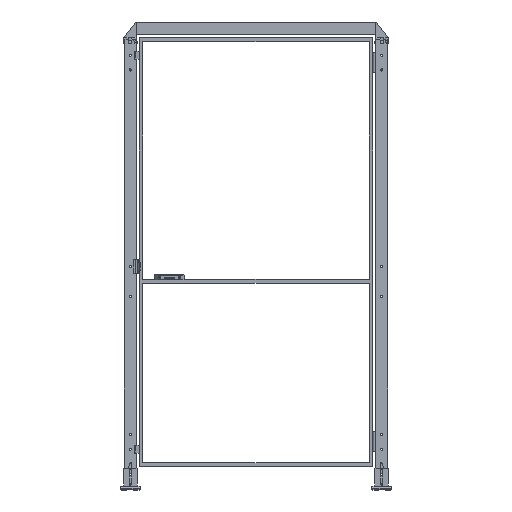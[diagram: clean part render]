
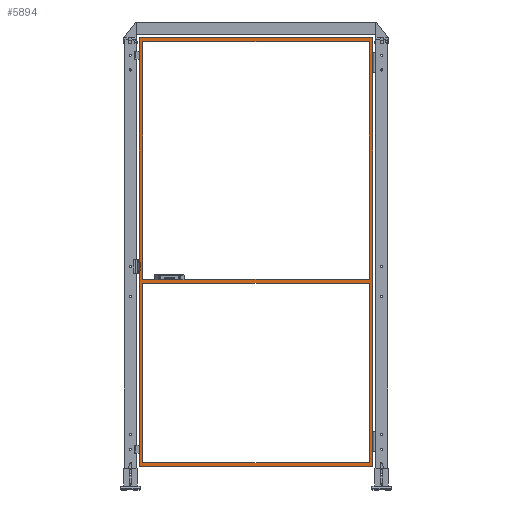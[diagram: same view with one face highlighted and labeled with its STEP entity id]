
A CAD part, top view. The second image highlights one B-rep face of the part: STEP entity #5894.
In plain terms, the highlighted planar face has unit normal (0, 0, 1).
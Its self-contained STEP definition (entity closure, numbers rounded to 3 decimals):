
#5894=ADVANCED_FACE('',(#12068,#12069,#12070),#12071,.F.);
#12068=FACE_BOUND('',#19807,.T.);
#12069=FACE_OUTER_BOUND('',#19808,.T.);
#12070=FACE_BOUND('',#19809,.T.);
#12071=PLANE('',#19810);
#19807=EDGE_LOOP('',(#37257,#37258,#37259,#37260));
#19808=EDGE_LOOP('',(#37261,#37262,#37263,#37264));
#19809=EDGE_LOOP('',(#37265,#37266,#37267,#37268));
#19810=AXIS2_PLACEMENT_3D('',#37269,#37270,#37271);
#37257=ORIENTED_EDGE('',*,*,#44399,.F.);
#37258=ORIENTED_EDGE('',*,*,#44405,.T.);
#37259=ORIENTED_EDGE('',*,*,#44427,.T.);
#37260=ORIENTED_EDGE('',*,*,#44432,.F.);
#37261=ORIENTED_EDGE('',*,*,#44443,.F.);
#37262=ORIENTED_EDGE('',*,*,#44437,.F.);
#37263=ORIENTED_EDGE('',*,*,#44407,.F.);
#37264=ORIENTED_EDGE('',*,*,#44441,.F.);
#37265=ORIENTED_EDGE('',*,*,#44429,.F.);
#37266=ORIENTED_EDGE('',*,*,#44424,.F.);
#37267=ORIENTED_EDGE('',*,*,#44435,.T.);
#37268=ORIENTED_EDGE('',*,*,#44444,.T.);
#37269=CARTESIAN_POINT('',(615.0,130.0,10.0));
#37270=DIRECTION('',(0.,0.0,-1.0));
#37271=DIRECTION('',(-1.0,0.0,0.));
#44399=EDGE_CURVE('',#54881,#54884,#54885,.T.);
#44405=EDGE_CURVE('',#54881,#54892,#54894,.T.);
#44407=EDGE_CURVE('',#54896,#54897,#54898,.T.);
#44424=EDGE_CURVE('',#54924,#54922,#54926,.T.);
#44427=EDGE_CURVE('',#54892,#54928,#54930,.T.);
#44429=EDGE_CURVE('',#54922,#54932,#54933,.T.);
#44432=EDGE_CURVE('',#54884,#54928,#54936,.T.);
#44435=EDGE_CURVE('',#54924,#54938,#54940,.T.);
#44437=EDGE_CURVE('',#54897,#54942,#54943,.T.);
#44441=EDGE_CURVE('',#54946,#54896,#54948,.T.);
#44443=EDGE_CURVE('',#54942,#54946,#54950,.T.);
#44444=EDGE_CURVE('',#54938,#54932,#54951,.T.);
#54881=VERTEX_POINT('',#70715);
#54884=VERTEX_POINT('',#70719);
#54885=LINE('',#70720,#70721);
#54892=VERTEX_POINT('',#70731);
#54894=LINE('',#70734,#70735);
#54896=VERTEX_POINT('',#70737);
#54897=VERTEX_POINT('',#70738);
#54898=LINE('',#70739,#70740);
#54922=VERTEX_POINT('',#70776);
#54924=VERTEX_POINT('',#70779);
#54926=LINE('',#70782,#70783);
#54928=VERTEX_POINT('',#70785);
#54930=LINE('',#70788,#70789);
#54932=VERTEX_POINT('',#70791);
#54933=LINE('',#70792,#70793);
#54936=LINE('',#70797,#70798);
#54938=VERTEX_POINT('',#70800);
#54940=LINE('',#70803,#70804);
#54942=VERTEX_POINT('',#70806);
#54943=LINE('',#70807,#70808);
#54946=VERTEX_POINT('',#70812);
#54948=LINE('',#70815,#70816);
#54950=LINE('',#70818,#70819);
#54951=LINE('',#70820,#70821);
#70715=CARTESIAN_POINT('',(1195.0,2300.0,10.));
#70719=CARTESIAN_POINT('',(35.,2300.0,10.0));
#70720=CARTESIAN_POINT('',(615.0,2300.0,10.0));
#70721=VECTOR('',#78397,1.0);
#70731=CARTESIAN_POINT('',(1195.0,1080.0,10.));
#70734=CARTESIAN_POINT('',(1195.0,1220.0,10.));
#70735=VECTOR('',#78402,1.0);
#70737=CARTESIAN_POINT('',(15.0,120.0,10.0));
#70738=CARTESIAN_POINT('',(15.,2320.0,10.0));
#70739=CARTESIAN_POINT('',(15.0,130.0,10.0));
#70740=VECTOR('',#78403,1.0);
#70776=CARTESIAN_POINT('',(35.,1060.0,10.0));
#70779=CARTESIAN_POINT('',(1195.0,1060.0,10.));
#70782=CARTESIAN_POINT('',(615.0,1060.0,10.0));
#70783=VECTOR('',#78418,1.0);
#70785=CARTESIAN_POINT('',(35.,1080.0,10.0));
#70788=CARTESIAN_POINT('',(615.0,1080.0,10.0));
#70789=VECTOR('',#78420,1.0);
#70791=CARTESIAN_POINT('',(35.0,140.0,10.0));
#70792=CARTESIAN_POINT('',(35.,1220.0,10.0));
#70793=VECTOR('',#78421,1.0);
#70797=CARTESIAN_POINT('',(35.,1220.0,10.0));
#70798=VECTOR('',#78423,1.0);
#70800=CARTESIAN_POINT('',(1195.0,140.0,10.));
#70803=CARTESIAN_POINT('',(1195.0,1220.0,10.));
#70804=VECTOR('',#78425,1.0);
#70806=CARTESIAN_POINT('',(1215.0,2320.0,10.));
#70807=CARTESIAN_POINT('',(25.,2320.0,10.0));
#70808=VECTOR('',#78426,1.0);
#70812=CARTESIAN_POINT('',(1215.0,120.0,10.));
#70815=CARTESIAN_POINT('',(615.0,120.0,10.0));
#70816=VECTOR('',#78429,1.0);
#70818=CARTESIAN_POINT('',(1215.0,1220.0,10.));
#70819=VECTOR('',#78430,1.0);
#70820=CARTESIAN_POINT('',(615.0,140.0,10.0));
#70821=VECTOR('',#78431,1.0);
#78397=DIRECTION('',(-1.0,0.0,0.));
#78402=DIRECTION('',(0.,-1.0,0.));
#78403=DIRECTION('',(0.0,1.0,0.0));
#78418=DIRECTION('',(-1.0,0.0,0.));
#78420=DIRECTION('',(-1.0,0.0,0.));
#78421=DIRECTION('',(0.,-1.0,0.));
#78423=DIRECTION('',(0.,-1.0,0.));
#78425=DIRECTION('',(0.,-1.0,0.));
#78426=DIRECTION('',(1.0,0.,0.));
#78429=DIRECTION('',(-1.0,0.0,0.));
#78430=DIRECTION('',(0.,-1.0,0.));
#78431=DIRECTION('',(-1.0,0.0,0.));
